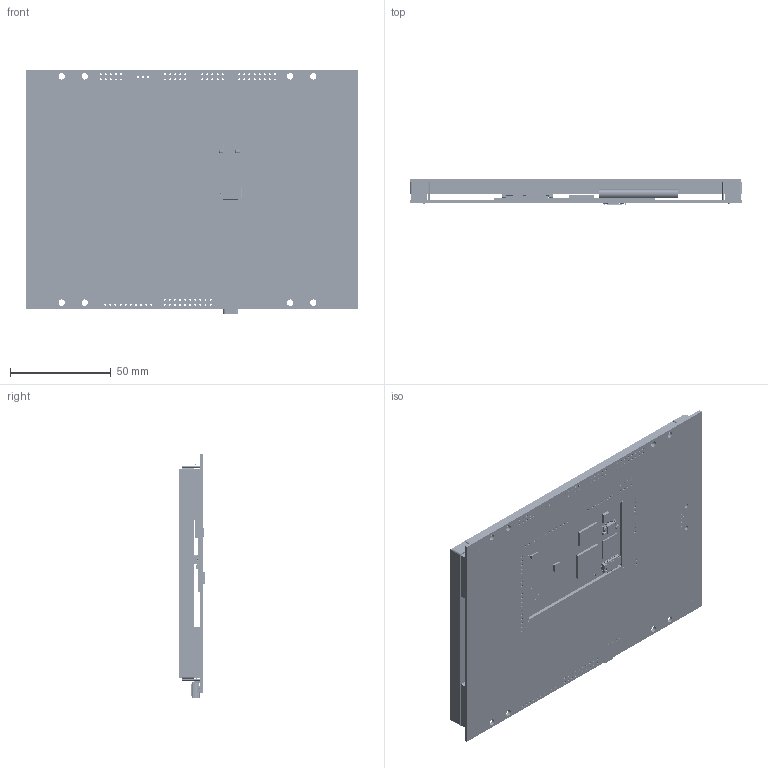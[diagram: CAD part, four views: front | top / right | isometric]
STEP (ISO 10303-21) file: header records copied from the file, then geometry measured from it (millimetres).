
FILE_DESCRIPTION (( 'STEP AP214' ), '1' );
FILE_NAME ('TW800x480C-K619SE4R2RU.STEP', '2015-05-27T14:07:09', ( '' ), ( '' ), 'SwSTEP 2.0', 'SolidWorks 2015', '' );
FILE_SCHEMA (( 'AUTOMOTIVE_DESIGN' ));
Length unit declared in the file: millimetre
Products named in the file (18): 40 pin connector; micro sd connector; lcd connector; pn28 pcb; Micro SD; TW800x480C NT; TW800x480C-K619SE4R2RU; 7 inch touch; MOLEX - 54819-0572 - Mini USB; pn28
Assembly tree (9 placements, depth 3):
  40 pin connector
  micro sd connector
  lcd connector
  pn28 pcb
  Micro SD
Bounding box: 165 x 12.8 x 120.98 mm (x, y, z)
Volume: 157641.8 mm3; surface area: 120410.6 mm2
Topology: 9 solids, 10 shells, 4820 faces, 12444 edges, 8174 vertices
Faces by surface type: plane 2889, cylinder 1854, bspline 77
Entity records: 177035 total; most frequent: CARTESIAN_POINT 27395, DIRECTION 25472, ORIENTED_EDGE 24759, EDGE_CURVE 12412, VECTOR 8508, LINE 8508, AXIS2_PLACEMENT_3D 8482, VERTEX_POINT 8174
